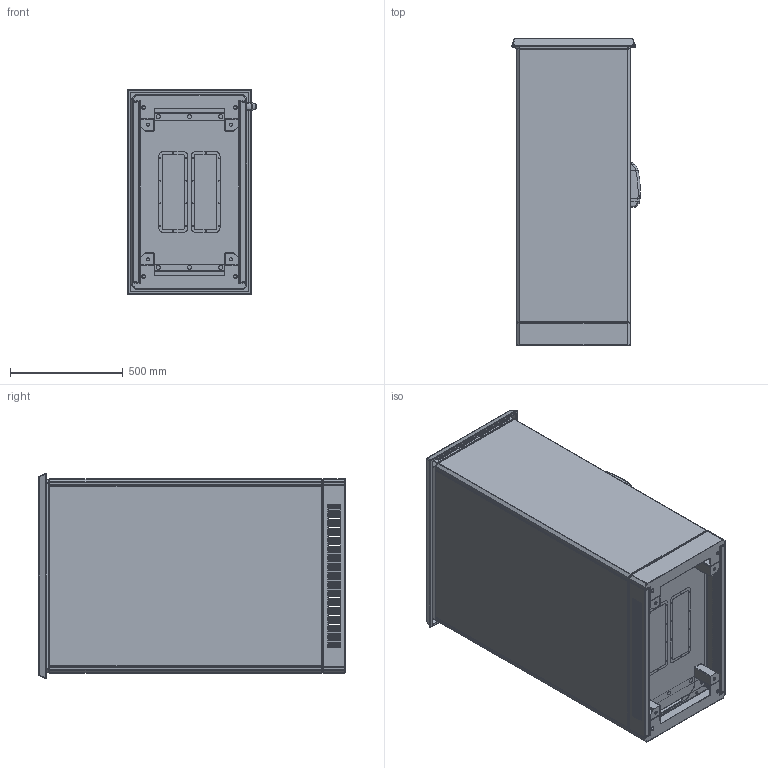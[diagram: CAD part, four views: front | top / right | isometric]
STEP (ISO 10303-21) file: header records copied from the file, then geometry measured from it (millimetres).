
FILE_DESCRIPTION (( 'STEP AP203' ), '1' );
FILE_NAME ('EVIS081205DA.STEP', '2021-03-15T13:30:04', ( '' ), ( '' ), 'SwSTEP 2.0', 'SolidWorks 2019', '' );
FILE_SCHEMA (( 'CONFIG_CONTROL_DESIGN' ));
Length unit declared in the file: millimetre
Products named in the file (10): AR_E-VIS_Retro_DA_0800x1200; AR_E-VIS_struttura_DADM_0800x1200x0500; EVIS081205DA; AR_E-VIS_Copertura Retro_DA_0800x1200; AR_E-VIS_Porta singola cieca_DA_0800x1200_DA; AR_ENUX_nuova_maniglia_mesan; AR_Tetto E-VIS_DA_0800x0500; AR_E-VIS_Zoccolo DA_0800x0500_areata; AR_E-VIS_Assieme porta singola_DA_0800x1200_DA; AR_E-VIS_Copertura Fianco_DA_0500x1200
Assembly tree (10 placements, depth 3):
  EVIS081205DA
    AR_E-VIS_struttura_DADM_0800x1200x0500
    AR_Tetto E-VIS_DA_0800x0500
    AR_E-VIS_Zoccolo DA_0800x0500_areata
    AR_E-VIS_Copertura Fianco_DA_0500x1200  x2
    AR_E-VIS_Retro_DA_0800x1200
    AR_E-VIS_Copertura Retro_DA_0800x1200
    AR_E-VIS_Assieme porta singola_DA_0800x1200_DA
      AR_E-VIS_Porta singola cieca_DA_0800x1200_DA
      AR_ENUX_nuova_maniglia_mesan
Bounding box: 569.71 x 1359.76 x 907.9 mm (x, y, z)
Volume: 19051772.4 mm3; surface area: 18752706.6 mm2
Topology: 13 solids, 14 shells, 4599 faces, 13224 edges, 8591 vertices
Faces by surface type: cylinder 2261, plane 2141, sphere 97, cone 54, bspline 25, torus 21
Entity records: 155177 total; most frequent: CARTESIAN_POINT 29920, DIRECTION 26140, ORIENTED_EDGE 25750, EDGE_CURVE 12875, AXIS2_PLACEMENT_3D 8944, VERTEX_POINT 8435, LINE 8252, VECTOR 8252
